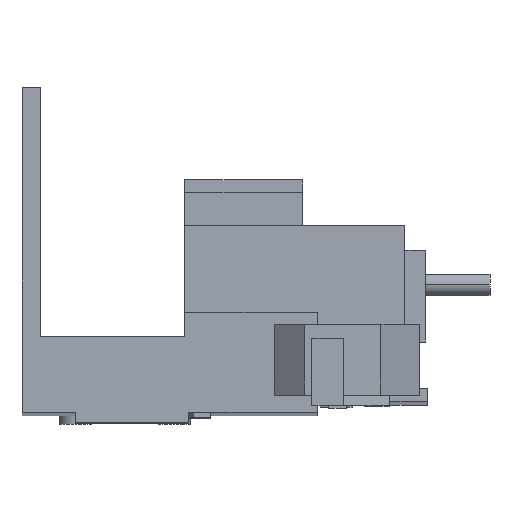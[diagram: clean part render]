
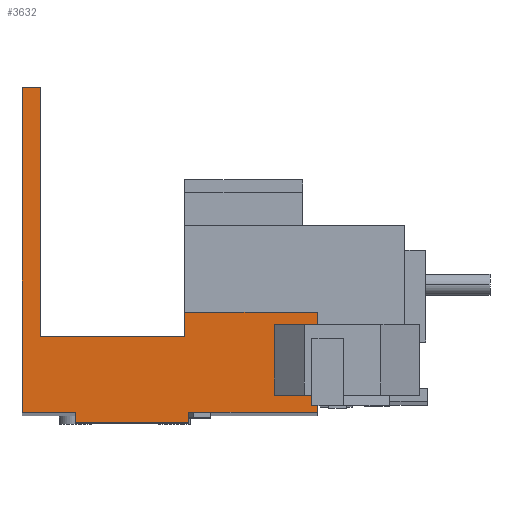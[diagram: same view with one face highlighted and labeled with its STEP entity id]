
A CAD part, front view. The second image highlights one B-rep face of the part: STEP entity #3632.
In plain terms, the highlighted planar face has unit normal (0, -1, 0.002).
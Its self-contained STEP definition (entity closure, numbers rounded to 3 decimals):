
#60 = CARTESIAN_POINT ( 'NONE',  ( 41.6, -33.046, -21.831 ) ) ;
#71 = CARTESIAN_POINT ( 'NONE',  ( 0., -33.075, -35.931 ) ) ;
#141 = CARTESIAN_POINT ( 'NONE',  ( 23.5, -33.075, -35.931 ) ) ;
#156 = CARTESIAN_POINT ( 'NONE',  ( 2.55, -32.98, 9.819 ) ) ;
#161 = CARTESIAN_POINT ( 'NONE',  ( 2.55, -33.053, -25.181 ) ) ;
#163 = CARTESIAN_POINT ( 'NONE',  ( 22.92, -33.053, -25.181 ) ) ;
#168 = CARTESIAN_POINT ( 'NONE',  ( 7.5, -33.078, -37.431 ) ) ;
#195 = CARTESIAN_POINT ( 'NONE',  ( 41.6, -33.075, -35.931 ) ) ;
#235 = CARTESIAN_POINT ( 'NONE',  ( 7.5, -33.075, -35.931 ) ) ;
#245 = CARTESIAN_POINT ( 'NONE',  ( 23.5, -33.078, -37.431 ) ) ;
#310 = CARTESIAN_POINT ( 'NONE',  ( 0., -32.98, 9.819 ) ) ;
#327 = CARTESIAN_POINT ( 'NONE',  ( 22.92, -33.046, -21.831 ) ) ;
#449 = FACE_OUTER_BOUND ( 'NONE', #2859, .T. ) ;
#1262 = CARTESIAN_POINT ( 'NONE',  ( 0., -33.075, -35.931 ) ) ;
#1269 = PLANE ( 'NONE',  #4699 ) ;
#1271 = DIRECTION ( 'NONE',  ( 0., 1., -0.002 ) ) ;
#1272 = DIRECTION ( 'NONE',  ( 1., 0., 0. ) ) ;
#2019 = LINE ( 'NONE', #4139, #2210 ) ;
#2042 = LINE ( 'NONE', #4150, #2212 ) ;
#2043 = VECTOR ( 'NONE', #4147, 1000. ) ;
#2044 = LINE ( 'NONE', #4148, #2216 ) ;
#2045 = VECTOR ( 'NONE', #4145, 1000. ) ;
#2051 = VECTOR ( 'NONE', #4289, 1000. ) ;
#2052 = LINE ( 'NONE', #4275, #2222 ) ;
#2054 = LINE ( 'NONE', #4288, #2051 ) ;
#2061 = VECTOR ( 'NONE', #4279, 1000. ) ;
#2064 = LINE ( 'NONE', #4278, #2061 ) ;
#2079 = LINE ( 'NONE', #4146, #2043 ) ;
#2083 = LINE ( 'NONE', #4144, #2045 ) ;
#2210 = VECTOR ( 'NONE', #4152, 1000. ) ;
#2212 = VECTOR ( 'NONE', #4151, 1000. ) ;
#2216 = VECTOR ( 'NONE', #4149, 1000. ) ;
#2222 = VECTOR ( 'NONE', #4295, 1000. ) ;
#2373 = VERTEX_POINT ( 'NONE', #141 ) ;
#2402 = VERTEX_POINT ( 'NONE', #156 ) ;
#2422 = VERTEX_POINT ( 'NONE', #161 ) ;
#2427 = VERTEX_POINT ( 'NONE', #163 ) ;
#2443 = VERTEX_POINT ( 'NONE', #168 ) ;
#2552 = VERTEX_POINT ( 'NONE', #195 ) ;
#2668 = ORIENTED_EDGE ( 'NONE', *, *, #5126, .F. ) ;
#2695 = VERTEX_POINT ( 'NONE', #235 ) ;
#2733 = VERTEX_POINT ( 'NONE', #245 ) ;
#2782 = ORIENTED_EDGE ( 'NONE', *, *, #5117, .F. ) ;
#2814 = ORIENTED_EDGE ( 'NONE', *, *, #5066, .T. ) ;
#2841 = ORIENTED_EDGE ( 'NONE', *, *, #5065, .T. ) ;
#2859 = EDGE_LOOP ( 'NONE', ( #3492, #3497, #3387, #2668, #3119, #2941, #2841, #2814, #2886, #3445, #3046, #2782 ) ) ;
#2886 = ORIENTED_EDGE ( 'NONE', *, *, #5205, .F. ) ;
#2941 = ORIENTED_EDGE ( 'NONE', *, *, #5064, .F. ) ;
#3009 = VERTEX_POINT ( 'NONE', #310 ) ;
#3035 = VERTEX_POINT ( 'NONE', #327 ) ;
#3046 = ORIENTED_EDGE ( 'NONE', *, *, #5122, .F. ) ;
#3119 = ORIENTED_EDGE ( 'NONE', *, *, #5213, .F. ) ;
#3248 = VERTEX_POINT ( 'NONE', #71 ) ;
#3294 = VERTEX_POINT ( 'NONE', #60 ) ;
#3387 = ORIENTED_EDGE ( 'NONE', *, *, #5208, .F. ) ;
#3445 = ORIENTED_EDGE ( 'NONE', *, *, #5191, .F. ) ;
#3492 = ORIENTED_EDGE ( 'NONE', *, *, #5063, .F. ) ;
#3497 = ORIENTED_EDGE ( 'NONE', *, *, #5062, .F. ) ;
#3632 = ADVANCED_FACE ( 'NONE', ( #449 ), #1269, .F. ) ;
#3849 = VECTOR ( 'NONE', #4472, 1000. ) ;
#3853 = LINE ( 'NONE', #4471, #3849 ) ;
#3859 = VECTOR ( 'NONE', #4454, 1000. ) ;
#3876 = VECTOR ( 'NONE', #4445, 1000. ) ;
#3882 = LINE ( 'NONE', #4444, #3876 ) ;
#3883 = VECTOR ( 'NONE', #4492, 1000. ) ;
#3889 = LINE ( 'NONE', #4491, #3883 ) ;
#3902 = LINE ( 'NONE', #4466, #3859 ) ;
#4139 = CARTESIAN_POINT ( 'NONE',  ( 23.5, -33.078, -37.431 ) ) ;
#4144 = CARTESIAN_POINT ( 'NONE',  ( 2.55, -33.072, -34.474 ) ) ;
#4145 = DIRECTION ( 'NONE',  ( 0., -0.002, -1. ) ) ;
#4146 = CARTESIAN_POINT ( 'NONE',  ( 1.75, -33.053, -25.181 ) ) ;
#4147 = DIRECTION ( 'NONE',  ( 1., 0., 0. ) ) ;
#4148 = CARTESIAN_POINT ( 'NONE',  ( 7.5, -33.078, -37.431 ) ) ;
#4149 = DIRECTION ( 'NONE',  ( 0., 0.002, 1. ) ) ;
#4150 = CARTESIAN_POINT ( 'NONE',  ( 7.5, -33.078, -37.431 ) ) ;
#4151 = DIRECTION ( 'NONE',  ( 1., 0., 0. ) ) ;
#4152 = DIRECTION ( 'NONE',  ( 0., 0.002, 1. ) ) ;
#4275 = CARTESIAN_POINT ( 'NONE',  ( 0., -32.98, 9.819 ) ) ;
#4278 = CARTESIAN_POINT ( 'NONE',  ( 22.92, -33.046, -21.831 ) ) ;
#4279 = DIRECTION ( 'NONE',  ( 0., 0.002, 1. ) ) ;
#4288 = CARTESIAN_POINT ( 'NONE',  ( 41.6, -33.046, -21.831 ) ) ;
#4289 = DIRECTION ( 'NONE',  ( 1., 0., 0. ) ) ;
#4295 = DIRECTION ( 'NONE',  ( 0., 0.002, 1. ) ) ;
#4444 = CARTESIAN_POINT ( 'NONE',  ( 41.6, -33.075, -35.931 ) ) ;
#4445 = DIRECTION ( 'NONE',  ( 0., -0.002, -1. ) ) ;
#4454 = DIRECTION ( 'NONE',  ( -1., 0., 0. ) ) ;
#4466 = CARTESIAN_POINT ( 'NONE',  ( 0., -33.075, -35.931 ) ) ;
#4471 = CARTESIAN_POINT ( 'NONE',  ( 2.55, -32.98, 9.819 ) ) ;
#4472 = DIRECTION ( 'NONE',  ( 1., 0., 0. ) ) ;
#4491 = CARTESIAN_POINT ( 'NONE',  ( 0., -33.075, -35.931 ) ) ;
#4492 = DIRECTION ( 'NONE',  ( -1., 0., 0. ) ) ;
#4699 = AXIS2_PLACEMENT_3D ( 'NONE', #1262, #1271, #1272 ) ;
#5062 = EDGE_CURVE ( 'NONE', #2402, #2422, #2083, .T. ) ;
#5063 = EDGE_CURVE ( 'NONE', #2422, #2427, #2079, .T. ) ;
#5064 = EDGE_CURVE ( 'NONE', #2443, #2695, #2044, .T. ) ;
#5065 = EDGE_CURVE ( 'NONE', #2443, #2733, #2042, .T. ) ;
#5066 = EDGE_CURVE ( 'NONE', #2733, #2373, #2019, .T. ) ;
#5117 = EDGE_CURVE ( 'NONE', #2427, #3035, #2064, .T. ) ;
#5122 = EDGE_CURVE ( 'NONE', #3035, #3294, #2054, .T. ) ;
#5126 = EDGE_CURVE ( 'NONE', #3248, #3009, #2052, .T. ) ;
#5191 = EDGE_CURVE ( 'NONE', #3294, #2552, #3882, .T. ) ;
#5205 = EDGE_CURVE ( 'NONE', #2552, #2373, #3902, .T. ) ;
#5208 = EDGE_CURVE ( 'NONE', #3009, #2402, #3853, .T. ) ;
#5213 = EDGE_CURVE ( 'NONE', #2695, #3248, #3889, .T. ) ;
